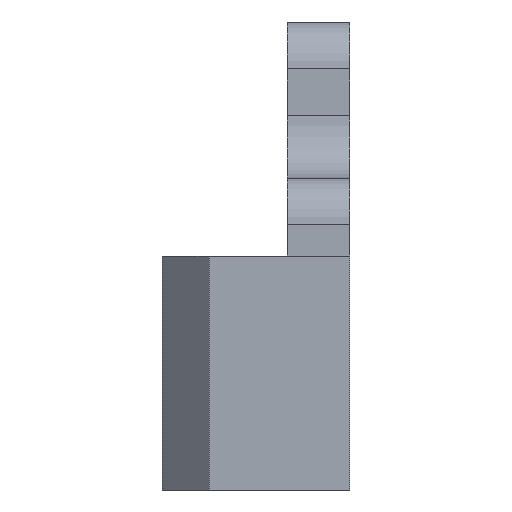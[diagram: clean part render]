
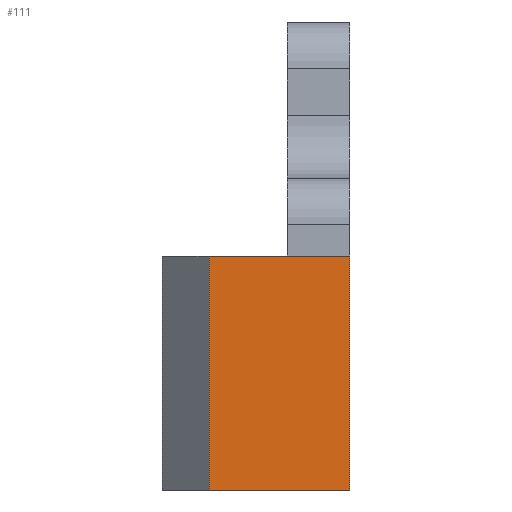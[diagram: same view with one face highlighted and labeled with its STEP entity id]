
A CAD part, left-side view. The second image highlights one B-rep face of the part: STEP entity #111.
In plain terms, the highlighted planar face has unit normal (-1, 0, 0).
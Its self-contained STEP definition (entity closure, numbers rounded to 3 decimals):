
#111 = ADVANCED_FACE( '', ( #232 ), #233, .F. );
#232 = FACE_OUTER_BOUND( '', #355, .T. );
#233 = PLANE( '', #356 );
#355 = EDGE_LOOP( '', ( #614, #615, #616, #617 ) );
#356 = AXIS2_PLACEMENT_3D( '', #618, #619, #620 );
#614 = ORIENTED_EDGE( '', *, *, #728, .F. );
#615 = ORIENTED_EDGE( '', *, *, #778, .T. );
#616 = ORIENTED_EDGE( '', *, *, #682, .T. );
#617 = ORIENTED_EDGE( '', *, *, #716, .F. );
#618 = CARTESIAN_POINT( '', ( 0., 12., 30. ) );
#619 = DIRECTION( '', ( 1., 0., 0. ) );
#620 = DIRECTION( '', ( 0., 1., 0. ) );
#682 = EDGE_CURVE( '', #804, #802, #805, .T. );
#716 = EDGE_CURVE( '', #860, #802, #862, .T. );
#728 = EDGE_CURVE( '', #882, #860, #884, .T. );
#778 = EDGE_CURVE( '', #882, #804, #950, .T. );
#802 = VERTEX_POINT( '', #978 );
#804 = VERTEX_POINT( '', #981 );
#805 = LINE( '', #982, #983 );
#860 = VERTEX_POINT( '', #1055 );
#862 = LINE( '', #1058, #1059 );
#882 = VERTEX_POINT( '', #1084 );
#884 = LINE( '', #1087, #1088 );
#950 = LINE( '', #1179, #1180 );
#978 = CARTESIAN_POINT( '', ( 0., 0., 0. ) );
#981 = CARTESIAN_POINT( '', ( 0., 9., 0. ) );
#982 = CARTESIAN_POINT( '', ( 0., 12., 0. ) );
#983 = VECTOR( '', #1204, 1000. );
#1055 = CARTESIAN_POINT( '', ( 0., 0., 15. ) );
#1058 = CARTESIAN_POINT( '', ( 0., 0., 30. ) );
#1059 = VECTOR( '', #1250, 1000. );
#1084 = CARTESIAN_POINT( '', ( 0., 9., 15. ) );
#1087 = CARTESIAN_POINT( '', ( 0., 138.813, 15. ) );
#1088 = VECTOR( '', #1269, 1000. );
#1179 = CARTESIAN_POINT( '', ( 0., 9., 30. ) );
#1180 = VECTOR( '', #1316, 1000. );
#1204 = DIRECTION( '', ( 0., -1., 0. ) );
#1250 = DIRECTION( '', ( 0., 0., -1. ) );
#1269 = DIRECTION( '', ( 0., -1., 0. ) );
#1316 = DIRECTION( '', ( 0., 0., -1. ) );
